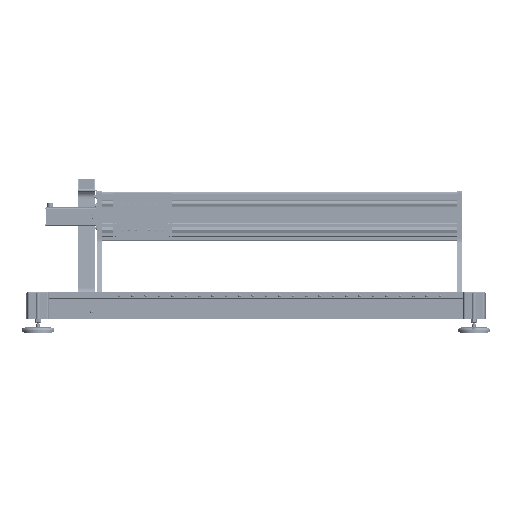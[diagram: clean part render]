
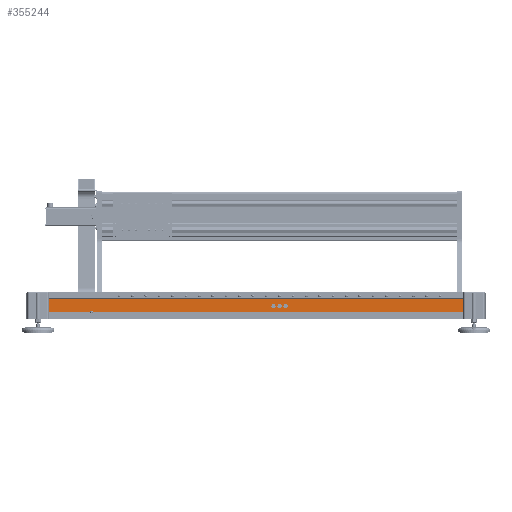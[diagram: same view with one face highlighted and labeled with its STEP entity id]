
A CAD part, top view. The second image highlights one B-rep face of the part: STEP entity #355244.
In plain terms, the highlighted planar face has unit normal (0, 0, 1).
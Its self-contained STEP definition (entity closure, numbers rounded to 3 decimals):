
#2163 = VERTEX_POINT ( 'NONE', #428822 ) ;
#3376 = CARTESIAN_POINT ( 'NONE',  ( -775., 75.3, 891. ) ) ;
#7401 = DIRECTION ( 'NONE',  ( 1., 0., 0. ) ) ;
#12050 = LINE ( 'NONE', #407369, #16209 ) ;
#12671 = CARTESIAN_POINT ( 'NONE',  ( -611.513, 75.3, 891. ) ) ;
#14216 = EDGE_CURVE ( 'NONE', #360984, #2163, #510003, .T. ) ;
#16209 = VECTOR ( 'NONE', #118379, 1000. ) ;
#19136 = CARTESIAN_POINT ( 'NONE',  ( -615., 75., 891. ) ) ;
#24767 = DIRECTION ( 'NONE',  ( 0., 0., 1. ) ) ;
#28688 = VERTEX_POINT ( 'NONE', #172199 ) ;
#32453 = VERTEX_POINT ( 'NONE', #448341 ) ;
#38106 = ORIENTED_EDGE ( 'NONE', *, *, #495353, .F. ) ;
#52258 = EDGE_CURVE ( 'NONE', #200914, #200914, #420372, .T. ) ;
#60574 = DIRECTION ( 'NONE',  ( 1., 0., 0. ) ) ;
#70614 = AXIS2_PLACEMENT_3D ( 'NONE', #502119, #254686, #7401 ) ;
#77135 = EDGE_CURVE ( 'NONE', #89902, #89902, #300270, .T. ) ;
#77713 = CIRCLE ( 'NONE', #70614, 6. ) ;
#81415 = PLANE ( 'NONE',  #453674 ) ;
#86527 = CARTESIAN_POINT ( 'NONE',  ( 775., 75.3, 891. ) ) ;
#89902 = VERTEX_POINT ( 'NONE', #298736 ) ;
#105830 = CARTESIAN_POINT ( 'NONE',  ( -775., 50., 891. ) ) ;
#107058 = CARTESIAN_POINT ( 'NONE',  ( 775., 124.7, 891. ) ) ;
#107308 = VERTEX_POINT ( 'NONE', #12671 ) ;
#118379 = DIRECTION ( 'NONE',  ( -1., 0., 0. ) ) ;
#124709 = EDGE_CURVE ( 'NONE', #407708, #407708, #77713, .T. ) ;
#149951 = EDGE_LOOP ( 'NONE', ( #464222 ) ) ;
#150543 = CARTESIAN_POINT ( 'NONE',  ( 65.5, 96., 891. ) ) ;
#156214 = EDGE_CURVE ( 'NONE', #107308, #32453, #444277, .T. ) ;
#166331 = CARTESIAN_POINT ( 'NONE',  ( 775., 50., 891. ) ) ;
#172199 = CARTESIAN_POINT ( 'NONE',  ( 775., 75.3, 891. ) ) ;
#176856 = DIRECTION ( 'NONE',  ( -1., 0., 0. ) ) ;
#185293 = CARTESIAN_POINT ( 'NONE',  ( 71.5, 96., 891. ) ) ;
#187298 = ORIENTED_EDGE ( 'NONE', *, *, #52258, .F. ) ;
#191961 = DIRECTION ( 'NONE',  ( 1., 0., 0. ) ) ;
#192454 = EDGE_LOOP ( 'NONE', ( #388242 ) ) ;
#197608 = ORIENTED_EDGE ( 'NONE', *, *, #409571, .F. ) ;
#200914 = VERTEX_POINT ( 'NONE', #185293 ) ;
#208671 = DIRECTION ( 'NONE',  ( 0., 1., 0. ) ) ;
#213042 = VERTEX_POINT ( 'NONE', #107058 ) ;
#213692 = VECTOR ( 'NONE', #250959, 1000. ) ;
#214924 = LINE ( 'NONE', #86527, #213692 ) ;
#215403 = EDGE_LOOP ( 'NONE', ( #187298 ) ) ;
#249421 = DIRECTION ( 'NONE',  ( 1., 0., 0. ) ) ;
#250959 = DIRECTION ( 'NONE',  ( -1., 0., 0. ) ) ;
#254686 = DIRECTION ( 'NONE',  ( 0., 0., 1. ) ) ;
#258136 = CARTESIAN_POINT ( 'NONE',  ( 775., 124.7, 891. ) ) ;
#272136 = CARTESIAN_POINT ( 'NONE',  ( 110.5, 96., 891. ) ) ;
#274800 = EDGE_CURVE ( 'NONE', #28688, #213042, #499946, .T. ) ;
#281587 = ORIENTED_EDGE ( 'NONE', *, *, #304065, .T. ) ;
#295179 = ORIENTED_EDGE ( 'NONE', *, *, #274800, .T. ) ;
#298736 = CARTESIAN_POINT ( 'NONE',  ( 116.5, 96., 891. ) ) ;
#300270 = CIRCLE ( 'NONE', #300603, 6. ) ;
#300603 = AXIS2_PLACEMENT_3D ( 'NONE', #272136, #24767, #313741 ) ;
#304065 = EDGE_CURVE ( 'NONE', #213042, #2163, #534100, .T. ) ;
#308062 = DIRECTION ( 'NONE',  ( 0., 0., 1. ) ) ;
#313741 = DIRECTION ( 'NONE',  ( 1., 0., 0. ) ) ;
#355244 = ADVANCED_FACE ( 'NONE', ( #512348, #521343, #513586, #511336 ), #81415, .T. ) ;
#360984 = VERTEX_POINT ( 'NONE', #3376 ) ;
#379122 = ORIENTED_EDGE ( 'NONE', *, *, #14216, .F. ) ;
#388242 = ORIENTED_EDGE ( 'NONE', *, *, #124709, .F. ) ;
#391281 = DIRECTION ( 'NONE',  ( 0., 1., 0. ) ) ;
#402273 = EDGE_LOOP ( 'NONE', ( #431846, #38106, #295179, #281587, #379122, #197608 ) ) ;
#407369 = CARTESIAN_POINT ( 'NONE',  ( 775., 75.3, 891. ) ) ;
#407708 = VERTEX_POINT ( 'NONE', #530023 ) ;
#409571 = EDGE_CURVE ( 'NONE', #32453, #360984, #12050, .T. ) ;
#420372 = CIRCLE ( 'NONE', #468566, 6. ) ;
#428822 = CARTESIAN_POINT ( 'NONE',  ( -775., 124.7, 891. ) ) ;
#431846 = ORIENTED_EDGE ( 'NONE', *, *, #156214, .F. ) ;
#436779 = AXIS2_PLACEMENT_3D ( 'NONE', #19136, #308062, #60574 ) ;
#439513 = DIRECTION ( 'NONE',  ( 0., 0., 1. ) ) ;
#444277 = CIRCLE ( 'NONE', #436779, 3.5 ) ;
#448341 = CARTESIAN_POINT ( 'NONE',  ( -618.487, 75.3, 891. ) ) ;
#453674 = AXIS2_PLACEMENT_3D ( 'NONE', #166331, #496858, #249421 ) ;
#456363 = CARTESIAN_POINT ( 'NONE',  ( 775., 50., 891. ) ) ;
#464222 = ORIENTED_EDGE ( 'NONE', *, *, #77135, .F. ) ;
#468566 = AXIS2_PLACEMENT_3D ( 'NONE', #150543, #439513, #191961 ) ;
#495353 = EDGE_CURVE ( 'NONE', #28688, #107308, #214924, .T. ) ;
#496858 = DIRECTION ( 'NONE',  ( 0., 0., 1. ) ) ;
#499464 = VECTOR ( 'NONE', #208671, 1000. ) ;
#499946 = LINE ( 'NONE', #456363, #499464 ) ;
#502119 = CARTESIAN_POINT ( 'NONE',  ( 88., 96., 891. ) ) ;
#509470 = VECTOR ( 'NONE', #391281, 1000. ) ;
#510003 = LINE ( 'NONE', #105830, #509470 ) ;
#511336 = FACE_BOUND ( 'NONE', #215403, .T. ) ;
#512348 = FACE_OUTER_BOUND ( 'NONE', #402273, .T. ) ;
#513586 = FACE_BOUND ( 'NONE', #149951, .T. ) ;
#521343 = FACE_BOUND ( 'NONE', #192454, .T. ) ;
#530023 = CARTESIAN_POINT ( 'NONE',  ( 94., 96., 891. ) ) ;
#532585 = VECTOR ( 'NONE', #176856, 1000. ) ;
#534100 = LINE ( 'NONE', #258136, #532585 ) ;
